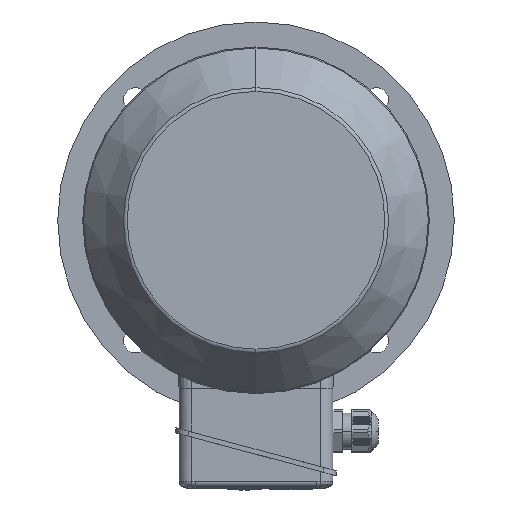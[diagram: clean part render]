
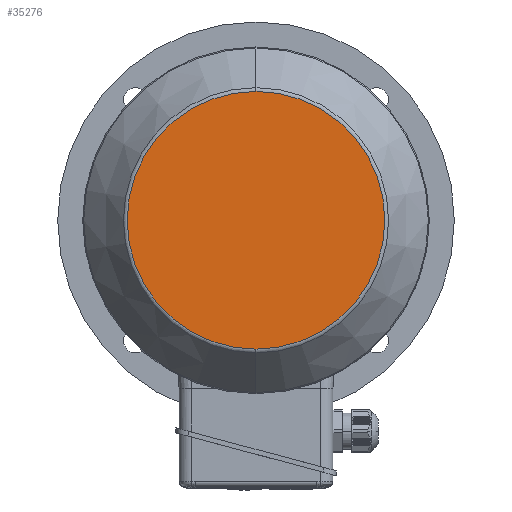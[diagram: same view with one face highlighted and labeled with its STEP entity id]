
A CAD part, left-side view. The second image highlights one B-rep face of the part: STEP entity #35276.
In plain terms, the highlighted planar face has unit normal (-1, 0, 0).
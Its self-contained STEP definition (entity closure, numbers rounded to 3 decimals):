
#418 = DIRECTION ( 'NONE',  ( 0., 0., -1. ) ) ;
#1194 = CIRCLE ( 'NONE', #4671, 81.227 ) ;
#2341 = DIRECTION ( 'NONE',  ( 0., 0., -1. ) ) ;
#4057 = AXIS2_PLACEMENT_3D ( 'NONE', #30025, #5754, #26952 ) ;
#4671 = AXIS2_PLACEMENT_3D ( 'NONE', #35527, #35410, #2341 ) ;
#5754 = DIRECTION ( 'NONE',  ( -1., 0., 0. ) ) ;
#9941 = EDGE_CURVE ( 'NONE', #22319, #38131, #1194, .T. ) ;
#10124 = DIRECTION ( 'NONE',  ( 1., 0., 0. ) ) ;
#13213 = CARTESIAN_POINT ( 'NONE',  ( -221., 0., 0. ) ) ;
#13457 = ORIENTED_EDGE ( 'NONE', *, *, #29321, .F. ) ;
#18117 = FACE_OUTER_BOUND ( 'NONE', #23760, .T. ) ;
#20186 = ORIENTED_EDGE ( 'NONE', *, *, #9941, .F. ) ;
#22319 = VERTEX_POINT ( 'NONE', #39436 ) ;
#23760 = EDGE_LOOP ( 'NONE', ( #13457, #20186 ) ) ;
#24242 = PLANE ( 'NONE',  #4057 ) ;
#26952 = DIRECTION ( 'NONE',  ( 0., 1., 0. ) ) ;
#29321 = EDGE_CURVE ( 'NONE', #38131, #22319, #39245, .T. ) ;
#30025 = CARTESIAN_POINT ( 'NONE',  ( -221., 0., -81.227 ) ) ;
#35276 = ADVANCED_FACE ( 'NONE', ( #18117 ), #24242, .T. ) ;
#35410 = DIRECTION ( 'NONE',  ( 1., 0., 0. ) ) ;
#35527 = CARTESIAN_POINT ( 'NONE',  ( -221., 0., 0. ) ) ;
#35983 = AXIS2_PLACEMENT_3D ( 'NONE', #13213, #10124, #418 ) ;
#38131 = VERTEX_POINT ( 'NONE', #40001 ) ;
#39245 = CIRCLE ( 'NONE', #35983, 81.227 ) ;
#39436 = CARTESIAN_POINT ( 'NONE',  ( -221., 0., 81.227 ) ) ;
#40001 = CARTESIAN_POINT ( 'NONE',  ( -221., 0., -81.227 ) ) ;
